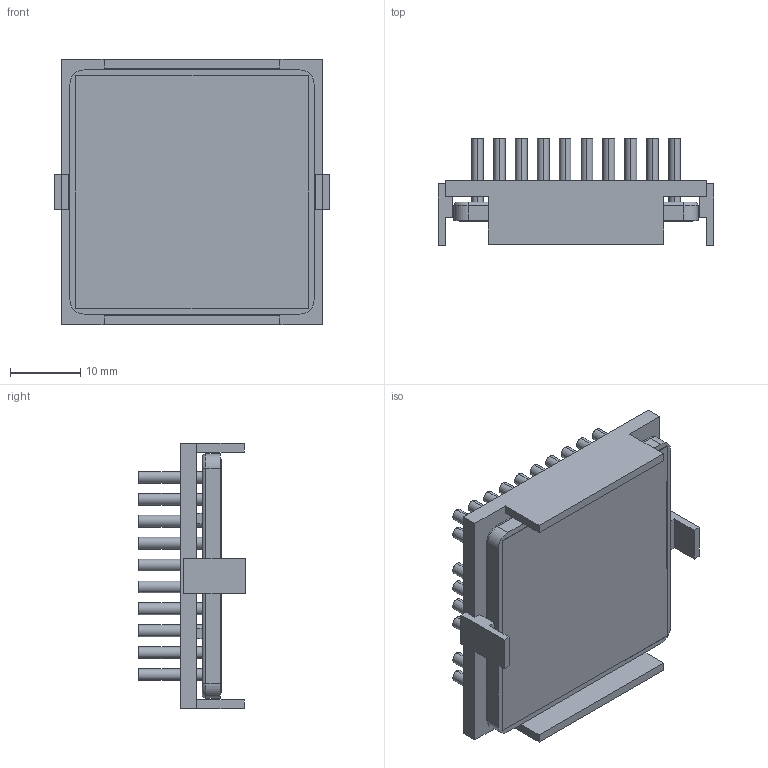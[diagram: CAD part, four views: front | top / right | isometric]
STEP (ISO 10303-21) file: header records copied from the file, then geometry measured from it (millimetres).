
FILE_DESCRIPTION (( 'STEP AP214' ), '1' );
FILE_NAME ('INM35002-12PCU-2.6Y.STEP', '2023-02-28T22:49:05', ( '' ), ( '' ), 'SwSTEP 2.0', 'SolidWorks 2020', '' );
FILE_SCHEMA (( 'AUTOMOTIVE_DESIGN' ));
Length unit declared in the file: inch
Products named in the file (1): INM35002-12PCU-2.6Y
Bounding box: 39.2 x 15.1 x 37.7 mm (x, y, z)
Volume: 6852.8 mm3; surface area: 12007.9 mm2
Topology: 3 solids, 3 shells, 358 faces, 772 edges, 512 vertices
Faces by surface type: cylinder 192, plane 162, torus 4
Entity records: 14600 total; most frequent: DIRECTION 1878, CARTESIAN_POINT 1643, ORIENTED_EDGE 1544, EDGE_CURVE 772, AXIS2_PLACEMENT_3D 747, VERTEX_POINT 512, EDGE_LOOP 452, CIRCLE 388
